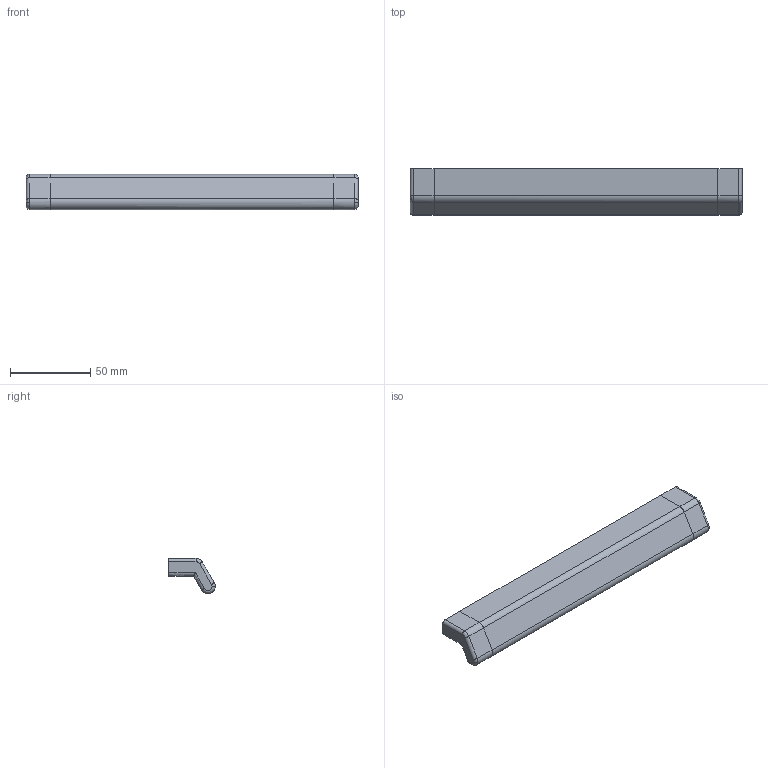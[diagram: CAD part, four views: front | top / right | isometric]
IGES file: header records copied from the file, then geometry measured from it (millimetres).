
Start section: C
Global section: file name: 8146-207.igs; native system: By Siemens PLM Incorporated; preprocessor: XPlus GENERIC/IGES 16.0.42; author: Author; organization: Title; date: 20231126.121743; units: millimetre
Bounding box: 207 x 29 x 22 mm (x, y, z)
Surface area: 40828.3 mm2 (no closed solid volume)
Topology: 0 solids, 0 shells, 126 faces, 664 edges, 664 vertices
Faces by surface type: bspline 126
